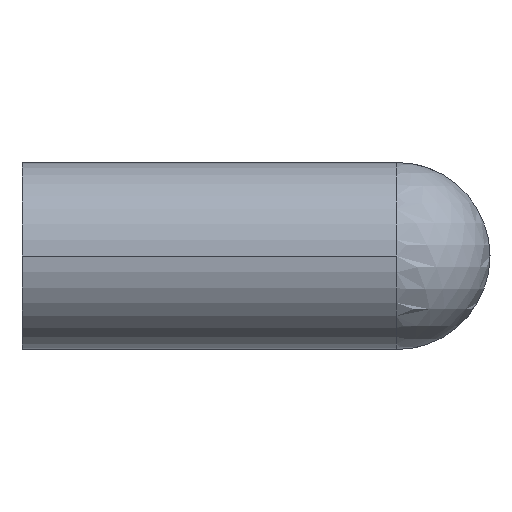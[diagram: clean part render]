
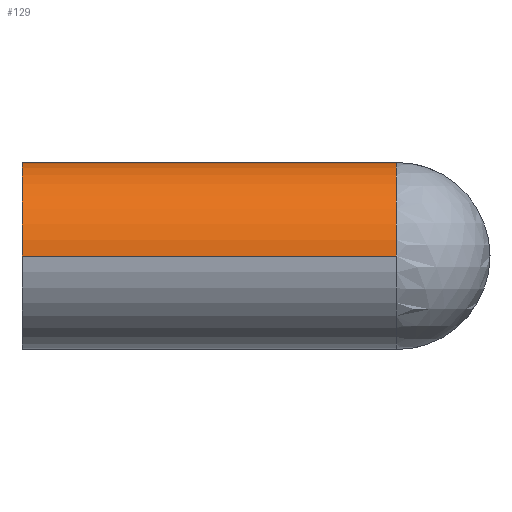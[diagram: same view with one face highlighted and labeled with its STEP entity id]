
A CAD part, left-side view. The second image highlights one B-rep face of the part: STEP entity #129.
In plain terms, the highlighted cylindrical face has radius 6 mm (diameter 12 mm), a partial arc.
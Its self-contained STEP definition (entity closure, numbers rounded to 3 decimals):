
#95 = VERTEX_POINT( '', #250 );
#115 = VERTEX_POINT( '', #274 );
#121 = EDGE_CURVE( '', #199, #191, #281, .T. );
#129 = ADVANCED_FACE( '', ( #289 ), #290, .T. );
#145 = VERTEX_POINT( '', #307 );
#167 = EDGE_CURVE( '', #95, #191, #332, .T. );
#183 = EDGE_CURVE( '', #115, #145, #351, .T. );
#191 = VERTEX_POINT( '', #360 );
#193 = EDGE_CURVE( '', #145, #199, #362, .T. );
#199 = VERTEX_POINT( '', #368 );
#207 = EDGE_CURVE( '', #115, #95, #378, .T. );
#250 = CARTESIAN_POINT( '', ( 0., -24., 6. ) );
#274 = CARTESIAN_POINT( '', ( -6., -24., 0. ) );
#281 = LINE( '', #451, #452 );
#289 = FACE_OUTER_BOUND( '', #463, .T. );
#290 = CYLINDRICAL_SURFACE( '', #464, 6. );
#307 = CARTESIAN_POINT( '', ( -6., 0., 0. ) );
#332 = ELLIPSE( '', #519, 8.485, 6. );
#351 = LINE( '', #542, #543 );
#360 = CARTESIAN_POINT( '', ( 6., -18., 0. ) );
#362 = CIRCLE( '', #558, 6. );
#368 = CARTESIAN_POINT( '', ( 6., 0., 0. ) );
#378 = CIRCLE( '', #575, 6. );
#451 = CARTESIAN_POINT( '', ( 6., 0., 0. ) );
#452 = VECTOR( '', #653, 1. );
#463 = EDGE_LOOP( '', ( #659, #660, #661, #662, #663 ) );
#464 = AXIS2_PLACEMENT_3D( '', #664, #665, #666 );
#519 = AXIS2_PLACEMENT_3D( '', #717, #718, #719 );
#542 = CARTESIAN_POINT( '', ( -6., 0., 0. ) );
#543 = VECTOR( '', #747, 1. );
#558 = AXIS2_PLACEMENT_3D( '', #760, #761, #762 );
#575 = AXIS2_PLACEMENT_3D( '', #780, #781, #782 );
#653 = DIRECTION( '', ( 0., -1., 0. ) );
#659 = ORIENTED_EDGE( '', *, *, #121, .F. );
#660 = ORIENTED_EDGE( '', *, *, #193, .F. );
#661 = ORIENTED_EDGE( '', *, *, #183, .F. );
#662 = ORIENTED_EDGE( '', *, *, #207, .T. );
#663 = ORIENTED_EDGE( '', *, *, #167, .T. );
#664 = CARTESIAN_POINT( '', ( 0., 0., 0. ) );
#665 = DIRECTION( '', ( 0., 1., 0. ) );
#666 = DIRECTION( '', ( 1., 0., 0. ) );
#717 = CARTESIAN_POINT( '', ( 0., -24., 0. ) );
#718 = DIRECTION( '', ( -0.707, 0.707, 0. ) );
#719 = DIRECTION( '', ( 0.707, 0.707, 0. ) );
#747 = DIRECTION( '', ( 0., 1., 0. ) );
#760 = CARTESIAN_POINT( '', ( 0., 0., 0. ) );
#761 = DIRECTION( '', ( 0., 1., 0. ) );
#762 = DIRECTION( '', ( 1., 0., 0. ) );
#780 = CARTESIAN_POINT( '', ( 0., -24., 0. ) );
#781 = DIRECTION( '', ( 0., 1., 0. ) );
#782 = DIRECTION( '', ( 1., 0., 0. ) );
